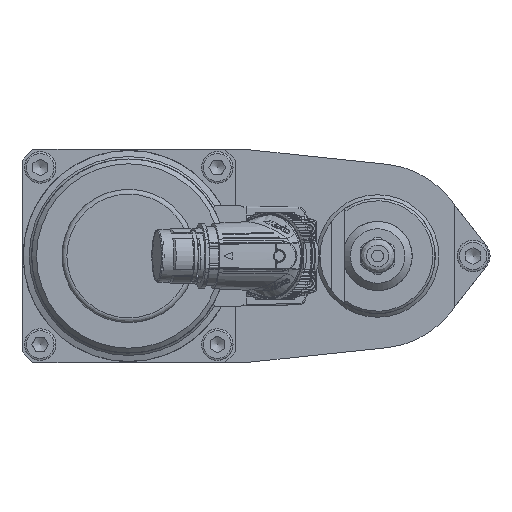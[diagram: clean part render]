
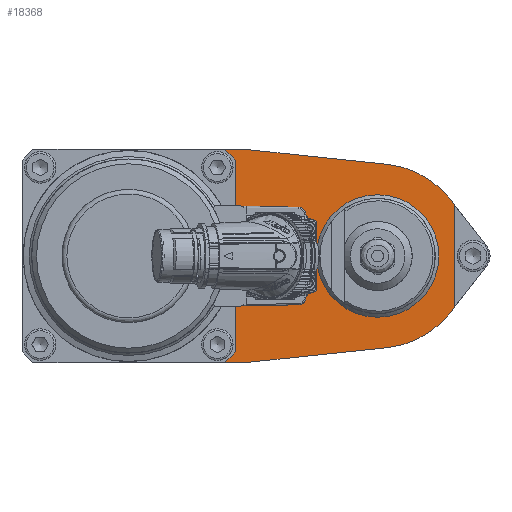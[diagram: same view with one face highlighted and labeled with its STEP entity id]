
A CAD part, left-side view. The second image highlights one B-rep face of the part: STEP entity #18368.
In plain terms, the highlighted planar face has unit normal (-1, 0, 0).
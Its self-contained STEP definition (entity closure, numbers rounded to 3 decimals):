
#121 = VERTEX_POINT ( 'NONE', #32856 ) ;
#196 = ORIENTED_EDGE ( 'NONE', *, *, #69112, .T. ) ;
#1648 = VERTEX_POINT ( 'NONE', #25037 ) ;
#2371 = VERTEX_POINT ( 'NONE', #27498 ) ;
#2423 = AXIS2_PLACEMENT_3D ( 'NONE', #69264, #33715, #75189 ) ;
#5901 = DIRECTION ( 'NONE',  ( 0., 0.707, -0.707 ) ) ;
#7849 = ORIENTED_EDGE ( 'NONE', *, *, #39231, .F. ) ;
#9042 = VERTEX_POINT ( 'NONE', #15826 ) ;
#9707 = CARTESIAN_POINT ( 'NONE',  ( -132., 55.095, -44. ) ) ;
#10414 = ORIENTED_EDGE ( 'NONE', *, *, #21281, .F. ) ;
#10754 = EDGE_CURVE ( 'NONE', #67239, #32442, #43426, .T. ) ;
#10763 = DIRECTION ( 'NONE',  ( 0., 0., -1. ) ) ;
#11467 = LINE ( 'NONE', #44117, #11476 ) ;
#11476 = VECTOR ( 'NONE', #20419, 1000. ) ;
#12695 = VERTEX_POINT ( 'NONE', #15142 ) ;
#14105 = DIRECTION ( 'NONE',  ( 0., 0., -1. ) ) ;
#14527 = ORIENTED_EDGE ( 'NONE', *, *, #22201, .F. ) ;
#14824 = ORIENTED_EDGE ( 'NONE', *, *, #23560, .F. ) ;
#15142 = CARTESIAN_POINT ( 'NONE',  ( -132., -29.944, -23.395 ) ) ;
#15826 = CARTESIAN_POINT ( 'NONE',  ( -132., 58.579, 39.5 ) ) ;
#16061 = CIRCLE ( 'NONE', #18629, 38. ) ;
#16867 = ORIENTED_EDGE ( 'NONE', *, *, #65295, .F. ) ;
#16903 = CARTESIAN_POINT ( 'NONE',  ( -132., 55.095, 44. ) ) ;
#18158 = DIRECTION ( 'NONE',  ( 0., 0., 1. ) ) ;
#18368 = ADVANCED_FACE ( 'NONE', ( #73743, #74423 ), #18896, .T. ) ;
#18400 = DIRECTION ( 'NONE',  ( -1., 0., 0. ) ) ;
#18629 = AXIS2_PLACEMENT_3D ( 'NONE', #58699, #22923, #64679 ) ;
#18896 = PLANE ( 'NONE',  #37463 ) ;
#19075 = EDGE_LOOP ( 'NONE', ( #7849 ) ) ;
#20419 = DIRECTION ( 'NONE',  ( 0., -0.707, -0.707 ) ) ;
#20807 = CARTESIAN_POINT ( 'NONE',  ( -132., 50.12, 0. ) ) ;
#21281 = EDGE_CURVE ( 'NONE', #32442, #63322, #29898, .T. ) ;
#21297 = LINE ( 'NONE', #43821, #67201 ) ;
#22201 = EDGE_CURVE ( 'NONE', #12695, #32292, #16061, .T. ) ;
#22923 = DIRECTION ( 'NONE',  ( 1., 0., 0. ) ) ;
#23560 = EDGE_CURVE ( 'NONE', #2371, #12695, #76059, .T. ) ;
#24171 = EDGE_CURVE ( 'NONE', #1648, #49578, #69310, .T. ) ;
#24735 = EDGE_CURVE ( 'NONE', #63322, #1648, #56590, .T. ) ;
#25037 = CARTESIAN_POINT ( 'NONE',  ( -132., -29.944, 23.395 ) ) ;
#25313 = CARTESIAN_POINT ( 'NONE',  ( -132., 63.079, 44. ) ) ;
#25973 = CARTESIAN_POINT ( 'NONE',  ( -132., 0., 0. ) ) ;
#26529 = CARTESIAN_POINT ( 'NONE',  ( -132., 55.095, 44. ) ) ;
#27498 = CARTESIAN_POINT ( 'NONE',  ( -132., -31.84, -20.969 ) ) ;
#28100 = VECTOR ( 'NONE', #10763, 1000. ) ;
#28116 = EDGE_CURVE ( 'NONE', #67239, #9042, #11467, .T. ) ;
#28179 = LINE ( 'NONE', #52267, #28100 ) ;
#28436 = CARTESIAN_POINT ( 'NONE',  ( -132., 55.095, -44. ) ) ;
#29592 = VERTEX_POINT ( 'NONE', #39127 ) ;
#29617 = VECTOR ( 'NONE', #58664, 1000. ) ;
#29648 = VECTOR ( 'NONE', #42282, 1000. ) ;
#29898 = LINE ( 'NONE', #16903, #29617 ) ;
#30134 = LINE ( 'NONE', #52986, #29648 ) ;
#30784 = EDGE_CURVE ( 'NONE', #9042, #68280, #21297, .T. ) ;
#31050 = ORIENTED_EDGE ( 'NONE', *, *, #24171, .F. ) ;
#32072 = DIRECTION ( 'NONE',  ( 0., 0., 1. ) ) ;
#32292 = VERTEX_POINT ( 'NONE', #36781 ) ;
#32442 = VERTEX_POINT ( 'NONE', #26529 ) ;
#32856 = CARTESIAN_POINT ( 'NONE',  ( -132., 63.079, -44. ) ) ;
#33715 = DIRECTION ( 'NONE',  ( -1., 0., 0. ) ) ;
#34436 = DIRECTION ( 'NONE',  ( 0., 0.995, -0.105 ) ) ;
#36613 = DIRECTION ( 'NONE',  ( 0., -0.616, -0.788 ) ) ;
#36781 = CARTESIAN_POINT ( 'NONE',  ( -132., -3.972, -37.792 ) ) ;
#37463 = AXIS2_PLACEMENT_3D ( 'NONE', #20807, #18400, #18158 ) ;
#39127 = CARTESIAN_POINT ( 'NONE',  ( -132., 0., 25.25 ) ) ;
#39231 = EDGE_CURVE ( 'NONE', #29592, #29592, #59686, .T. ) ;
#41235 = ORIENTED_EDGE ( 'NONE', *, *, #28116, .T. ) ;
#42282 = DIRECTION ( 'NONE',  ( 0., 1., 0. ) ) ;
#43426 = LINE ( 'NONE', #54643, #43855 ) ;
#43821 = CARTESIAN_POINT ( 'NONE',  ( -132., 58.579, 44. ) ) ;
#43855 = VECTOR ( 'NONE', #54740, 1000. ) ;
#44074 = ORIENTED_EDGE ( 'NONE', *, *, #30784, .T. ) ;
#44117 = CARTESIAN_POINT ( 'NONE',  ( -132., 63.079, 44. ) ) ;
#45244 = AXIS2_PLACEMENT_3D ( 'NONE', #25973, #67640, #32072 ) ;
#47483 = ORIENTED_EDGE ( 'NONE', *, *, #24735, .F. ) ;
#47966 = EDGE_CURVE ( 'NONE', #60321, #121, #30134, .T. ) ;
#48215 = CARTESIAN_POINT ( 'NONE',  ( -132., -29.944, 23.395 ) ) ;
#49578 = VERTEX_POINT ( 'NONE', #76729 ) ;
#50291 = CARTESIAN_POINT ( 'NONE',  ( -132., -29.944, -23.395 ) ) ;
#50708 = ORIENTED_EDGE ( 'NONE', *, *, #47966, .F. ) ;
#51447 = EDGE_LOOP ( 'NONE', ( #41235, #44074, #196, #50708, #52583, #14527, #14824, #16867, #31050, #47483, #10414, #76747 ) ) ;
#52047 = CARTESIAN_POINT ( 'NONE',  ( -132., 58.579, -39.5 ) ) ;
#52267 = CARTESIAN_POINT ( 'NONE',  ( -132., -31.84, -20.969 ) ) ;
#52583 = ORIENTED_EDGE ( 'NONE', *, *, #57634, .F. ) ;
#52986 = CARTESIAN_POINT ( 'NONE',  ( -132., 146.579, -44. ) ) ;
#54643 = CARTESIAN_POINT ( 'NONE',  ( -132., 146.579, 44. ) ) ;
#54740 = DIRECTION ( 'NONE',  ( 0., -1., 0. ) ) ;
#56302 = DIRECTION ( 'NONE',  ( 0., 0.616, -0.788 ) ) ;
#56590 = CIRCLE ( 'NONE', #45244, 38. ) ;
#57634 = EDGE_CURVE ( 'NONE', #32292, #60321, #58794, .T. ) ;
#58585 = VECTOR ( 'NONE', #34436, 1000. ) ;
#58664 = DIRECTION ( 'NONE',  ( 0., -0.995, -0.105 ) ) ;
#58699 = CARTESIAN_POINT ( 'NONE',  ( -132., 0., 0. ) ) ;
#58794 = LINE ( 'NONE', #28436, #58585 ) ;
#58972 = CARTESIAN_POINT ( 'NONE',  ( -132., -3.972, 37.792 ) ) ;
#59686 = CIRCLE ( 'NONE', #2423, 25.25 ) ;
#60321 = VERTEX_POINT ( 'NONE', #9707 ) ;
#61010 = VECTOR ( 'NONE', #5901, 1000. ) ;
#61177 = LINE ( 'NONE', #65285, #61010 ) ;
#63322 = VERTEX_POINT ( 'NONE', #58972 ) ;
#64679 = DIRECTION ( 'NONE',  ( 0., 0., 1. ) ) ;
#65285 = CARTESIAN_POINT ( 'NONE',  ( -132., 58.579, -39.5 ) ) ;
#65295 = EDGE_CURVE ( 'NONE', #49578, #2371, #28179, .T. ) ;
#67201 = VECTOR ( 'NONE', #14105, 1000. ) ;
#67239 = VERTEX_POINT ( 'NONE', #25313 ) ;
#67640 = DIRECTION ( 'NONE',  ( 1., 0., 0. ) ) ;
#68280 = VERTEX_POINT ( 'NONE', #52047 ) ;
#69092 = VECTOR ( 'NONE', #36613, 1000. ) ;
#69112 = EDGE_CURVE ( 'NONE', #68280, #121, #61177, .T. ) ;
#69264 = CARTESIAN_POINT ( 'NONE',  ( -132., 0., 0. ) ) ;
#69310 = LINE ( 'NONE', #48215, #69092 ) ;
#73743 = FACE_OUTER_BOUND ( 'NONE', #51447, .T. ) ;
#74423 = FACE_BOUND ( 'NONE', #19075, .T. ) ;
#75189 = DIRECTION ( 'NONE',  ( 0., 0., 1. ) ) ;
#75804 = VECTOR ( 'NONE', #56302, 1000. ) ;
#76059 = LINE ( 'NONE', #50291, #75804 ) ;
#76729 = CARTESIAN_POINT ( 'NONE',  ( -132., -31.84, 20.969 ) ) ;
#76747 = ORIENTED_EDGE ( 'NONE', *, *, #10754, .F. ) ;
